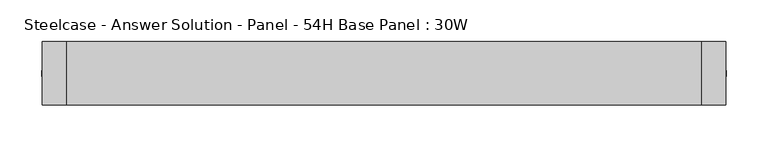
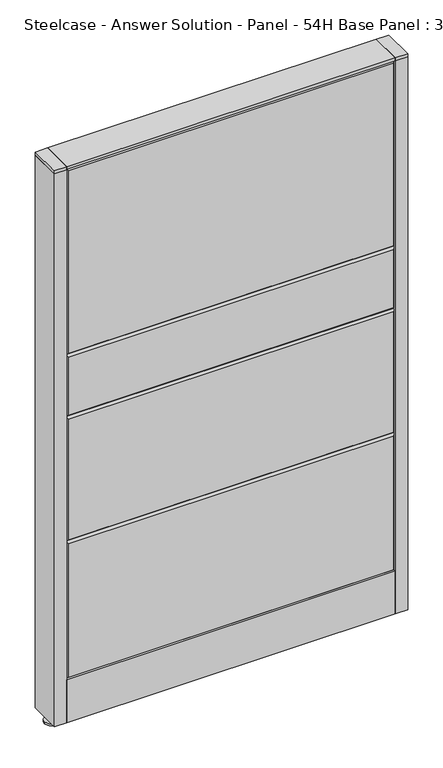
"""IFC4 building model written with IfcOpenShell, lengths in millimetres: furniture geometry, Steelcase - Answer Solution - Panel - 54H Base Panel : 30W."""

from ifc_helpers import new_model, si_unit, point, frame, frame_2d, origin, place, context, project, spatial, polyline, circle_curve, trimmed, segment, composite_curve, outline, extrude, faceted_brep, source, transform, mapped, element, save


def steelcase_answer_solution_panel_54h_base_panel_30w_8e56dbcc(model_context):
    return source(origin(), model_context, "Body", "SolidModel", [
        extrude(outline(composite_curve([segment(trimmed(circle_curve(frame_2d((395.224, 0.0320214)), 5.08), [point((400.304, 0.0320214))], [point((390.144, 0.0320214))], False, "CARTESIAN"), True, "CONTINUOUS"), segment(trimmed(circle_curve(frame_2d((395.224, 0.0320214)), 5.08), [point((390.144, 0.0320214))], [point((400.304, 0.0320214))], False, "CARTESIAN"), True, "CONTINUOUS")], self_intersect=False)), frame((0.0, 0.0, 5.0799671), z_axis=(0.0, 0.0, 1.0), x_axis=(1.0, 0.0, 0.0)), (0.0, 0.0, 1.0), 10.414),
        extrude(outline(composite_curve([segment(trimmed(circle_curve(frame_2d((395.224, 0.0320214)), 15.24), [point((410.464, 0.0320214))], [point((379.984, 0.0320214))], False, "CARTESIAN"), True, "CONTINUOUS"), segment(trimmed(circle_curve(frame_2d((395.224, 0.0320214)), 15.24), [point((379.984, 0.0320214))], [point((410.464, 0.0320214))], False, "CARTESIAN"), True, "CONTINUOUS")], self_intersect=False)), frame((0.0, 0.0, -3.29e-05), z_axis=(0.0, 0.0, 1.0), x_axis=(1.0, 0.0, 0.0)), (0.0, 0.0, 1.0), 5.08),
        extrude(outline(polyline([(409.575, 38.1320408), (409.575, -38.0679592), (381.0, -38.0679592), (381.0, 38.1320408), (409.575, 38.1320408)])), frame((0.0, 0.0, 1370.6348), z_axis=(0.0, 0.0, 1.0), x_axis=(1.0, 0.0, 0.0)), (0.0, 0.0, 1.0), 7.3151671),
        extrude(outline(polyline([(409.575, 38.1320408), (409.575, -38.0679592), (381.0, -38.0679592), (381.0, 38.1320408), (409.575, 38.1320408)])), frame((0.0, 0.0, 15.4939671), z_axis=(0.0, 0.0, 1.0), x_axis=(1.0, 0.0, 0.0)), (0.0, 0.0, 1.0), 1355.1408329),
        extrude(outline(composite_curve([segment(trimmed(circle_curve(frame_2d((-395.224, 0.0320214)), 5.08), [point((-400.304, 0.0320214))], [point((-390.144, 0.0320214))], False, "CARTESIAN"), True, "CONTINUOUS"), segment(trimmed(circle_curve(frame_2d((-395.224, 0.0320214)), 5.08), [point((-390.144, 0.0320214))], [point((-400.304, 0.0320214))], False, "CARTESIAN"), True, "CONTINUOUS")], self_intersect=False)), frame((0.0, 0.0, 5.0799671), z_axis=(0.0, 0.0, 1.0), x_axis=(1.0, 0.0, 0.0)), (0.0, 0.0, 1.0), 10.414),
        extrude(outline(composite_curve([segment(trimmed(circle_curve(frame_2d((-395.224, 0.0320214)), 15.24), [point((-410.464, 0.0320214))], [point((-379.984, 0.0320214))], False, "CARTESIAN"), True, "CONTINUOUS"), segment(trimmed(circle_curve(frame_2d((-395.224, 0.0320214)), 15.24), [point((-379.984, 0.0320214))], [point((-410.464, 0.0320214))], False, "CARTESIAN"), True, "CONTINUOUS")], self_intersect=False)), frame((0.0, 0.0, -3.29e-05), z_axis=(0.0, 0.0, 1.0), x_axis=(1.0, 0.0, 0.0)), (0.0, 0.0, 1.0), 5.08),
        extrude(outline(polyline([(-409.575, 38.1320408), (-381.0, 38.1320408), (-381.0, -38.0679592), (-409.575, -38.0679592), (-409.575, 38.1320408)])), frame((0.0, 0.0, 1370.6348), z_axis=(0.0, 0.0, 1.0), x_axis=(1.0, 0.0, 0.0)), (0.0, 0.0, 1.0), 7.3151671),
        extrude(outline(polyline([(-409.575, 38.1320408), (-381.0, 38.1320408), (-381.0, -38.0679592), (-409.575, -38.0679592), (-409.575, 38.1320408)])), frame((0.0, 0.0, 15.4939671), z_axis=(0.0, 0.0, 1.0), x_axis=(1.0, 0.0, 0.0)), (0.0, 0.0, 1.0), 1355.1408329),
        faceted_brep([(-376.174, 38.1635011, 1366.774), (376.174, 38.1635011, 1366.774), (376.174, 38.1635011, 919.226), (-376.174, 38.1635011, 919.226), (-381.0, 33.3375011, 1371.6), (-381.0, 33.3375011, 914.4), (381.0, 33.3375011, 914.4), (381.0, 33.3375011, 1371.6)], [[[0, 1, 2, 3]], [[4, 5, 6, 7]], [[4, 7, 1, 0]], [[7, 6, 2, 1]], [[6, 5, 3, 2]], [[5, 4, 0, 3]]]),
        faceted_brep([(-376.174, 38.1635011, 909.574), (376.174, 38.1635011, 909.574), (376.174, 38.1635011, 766.826), (-376.174, 38.1635011, 766.826), (-381.0, 33.3375011, 914.4), (-381.0, 33.3375011, 762.0), (381.0, 33.3375011, 762.0), (381.0, 33.3375011, 914.4)], [[[0, 1, 2, 3]], [[4, 5, 6, 7]], [[4, 7, 1, 0]], [[7, 6, 2, 1]], [[6, 5, 3, 2]], [[5, 4, 0, 3]]]),
        faceted_brep([(-376.174, 38.1635011, 757.174), (376.174, 38.1635011, 757.174), (376.174, 38.1635011, 462.026), (-376.174, 38.1635011, 462.026), (-381.0, 33.3375011, 762.0), (-381.0, 33.3375011, 457.2), (381.0, 33.3375011, 457.2), (381.0, 33.3375011, 762.0)], [[[0, 1, 2, 3]], [[4, 5, 6, 7]], [[4, 7, 1, 0]], [[7, 6, 2, 1]], [[6, 5, 3, 2]], [[5, 4, 0, 3]]]),
        faceted_brep([(-376.174, 38.1635011, 452.374), (376.174, 38.1635011, 452.374), (376.174, 38.1635011, 125.476), (-376.174, 38.1635011, 125.476), (-381.0, 33.3375011, 457.2), (-381.0, 33.3375011, 120.65), (381.0, 33.3375011, 120.65), (381.0, 33.3375011, 457.2)], [[[0, 1, 2, 3]], [[4, 5, 6, 7]], [[4, 7, 1, 0]], [[7, 6, 2, 1]], [[6, 5, 3, 2]], [[5, 4, 0, 3]]]),
        faceted_brep([(376.174, -38.1635011, 1366.774), (-376.174, -38.1635011, 1366.774), (-376.174, -38.1635011, 919.226), (376.174, -38.1635011, 919.226), (381.0, -33.3375011, 1371.6), (381.0, -33.3375011, 914.4), (-381.0, -33.3375011, 914.4), (-381.0, -33.3375011, 1371.6)], [[[0, 1, 2, 3]], [[4, 5, 6, 7]], [[4, 7, 1, 0]], [[7, 6, 2, 1]], [[6, 5, 3, 2]], [[5, 4, 0, 3]]]),
        faceted_brep([(376.174, -38.1635011, 909.574), (-376.174, -38.1635011, 909.574), (-376.174, -38.1635011, 766.826), (376.174, -38.1635011, 766.826), (381.0, -33.3375011, 914.4), (381.0, -33.3375011, 762.0), (-381.0, -33.3375011, 762.0), (-381.0, -33.3375011, 914.4)], [[[0, 1, 2, 3]], [[4, 5, 6, 7]], [[4, 7, 1, 0]], [[7, 6, 2, 1]], [[6, 5, 3, 2]], [[5, 4, 0, 3]]]),
        faceted_brep([(376.174, -38.1635011, 757.174), (-376.174, -38.1635011, 757.174), (-376.174, -38.1635011, 462.026), (376.174, -38.1635011, 462.026), (381.0, -33.3375011, 762.0), (381.0, -33.3375011, 457.2), (-381.0, -33.3375011, 457.2), (-381.0, -33.3375011, 762.0)], [[[0, 1, 2, 3]], [[4, 5, 6, 7]], [[4, 7, 1, 0]], [[7, 6, 2, 1]], [[6, 5, 3, 2]], [[5, 4, 0, 3]]]),
        faceted_brep([(376.174, -38.1635011, 452.374), (-376.174, -38.1635011, 452.374), (-376.174, -38.1635011, 125.476), (376.174, -38.1635011, 125.476), (381.0, -33.3375011, 457.2), (381.0, -33.3375011, 120.65), (-381.0, -33.3375011, 120.65), (-381.0, -33.3375011, 457.2)], [[[0, 1, 2, 3]], [[4, 5, 6, 7]], [[4, 7, 1, 0]], [[7, 6, 2, 1]], [[6, 5, 3, 2]], [[5, 4, 0, 3]]]),
        extrude(outline(polyline([(381.0, 38.1000194), (381.0, -38.1000194), (-381.0, -38.1000194), (-381.0, 38.1000194), (381.0, 38.1000194)])), frame((0.0, 0.0, 1371.6), z_axis=(0.0, 0.0, 1.0), x_axis=(1.0, 0.0, 0.0)), (0.0, 0.0, 1.0), 6.35),
        extrude(outline(polyline([(25.4000011, 119.8575157), (25.4000011, 120.65), (38.1000194, 120.65), (38.1000194, 15.494), (37.3075215, 15.494), (37.3075215, 119.8575157), (25.4000011, 119.8575157)])), frame((-381.0, 0.0, 0.0), z_axis=(1.0, 0.0, 0.0), x_axis=(0.0, 1.0, 0.0)), (0.0, 0.0, 1.0), 762.0),
        extrude(outline(polyline([(-25.4000011, 119.8575157), (-37.3075215, 119.8575157), (-37.3075215, 15.494), (-38.1000194, 15.494), (-38.1000194, 120.65), (-25.4000011, 120.65), (-25.4000011, 119.8575157)])), frame((-381.0, 0.0, 0.0), z_axis=(1.0, 0.0, 0.0), x_axis=(0.0, 1.0, 0.0)), (0.0, 0.0, 1.0), 762.0),
    ])


if __name__ == "__main__":
    model = new_model("IFC4")
    model_context = context("Model", 3, world=origin())
    ifc_project = project(units=[si_unit("LENGTHUNIT", "METRE", prefix="MILLI")], contexts=[model_context])
    site = spatial("IfcSite", under=ifc_project)
    building = spatial("IfcBuilding", under=site)
    placement = place(None, origin())
    steelcase_answer_solution_panel_54h_base_panel_30w_shape = steelcase_answer_solution_panel_54h_base_panel_30w_8e56dbcc(model_context)
    element("IfcFurniture", 1, ObjectType="Steelcase - Answer Solution - Panel - 54H Base Panel : 30W", at=placement, inside=building, context=model_context, shape_type="MappedRepresentation", body=[
        mapped(steelcase_answer_solution_panel_54h_base_panel_30w_shape, transform((0.0, 0.0, 0.0), x_axis=(1.0, 0.0, 0.0), y_axis=(0.0, 1.0, 0.0), z_axis=(0.0, 0.0, 1.0))),
    ])
    save(model, "model.ifc")
